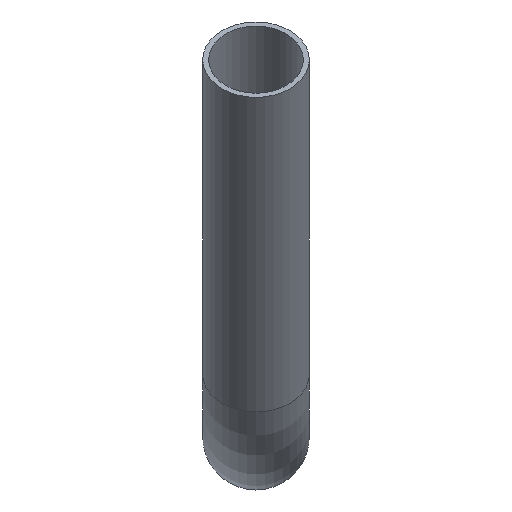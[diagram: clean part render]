
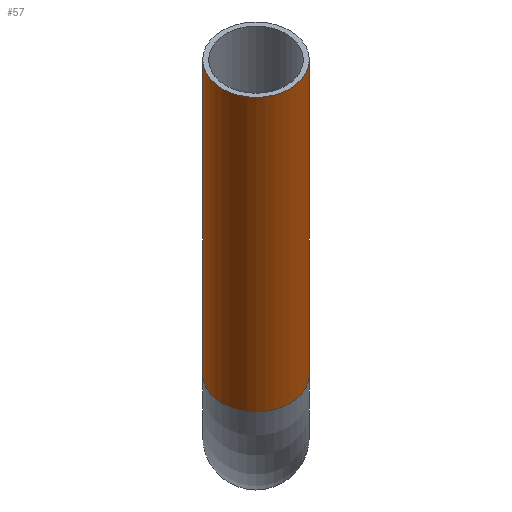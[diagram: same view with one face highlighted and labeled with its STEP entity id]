
A CAD part, front view. The second image highlights one B-rep face of the part: STEP entity #57.
In plain terms, the highlighted cylindrical face has radius 9 mm (diameter 18 mm), a full revolution.
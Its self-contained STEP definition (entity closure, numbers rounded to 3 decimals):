
#57=ADVANCED_FACE('',(#97,#99),#101,.T.);
#97=FACE_OUTER_BOUND('',#98,.T.);
#98=EDGE_LOOP('',(#141));
#99=FACE_OUTER_BOUND('',#100,.T.);
#100=EDGE_LOOP('',(#142));
#101=CYLINDRICAL_SURFACE('',#102,9.);
#102=AXIS2_PLACEMENT_3D('',#103,#104,#105);
#103=CARTESIAN_POINT('',(0.,-10.544,10.544));
#104=DIRECTION('',(0.,-0.707,0.707));
#105=DIRECTION('',(-1.,0.,0.));
#141=ORIENTED_EDGE('',*,*,#153,.T.);
#142=ORIENTED_EDGE('',*,*,#155,.F.);
#153=EDGE_CURVE('',#165,#165,#166,.T.);
#155=EDGE_CURVE('',#169,#169,#170,.T.);
#165=VERTEX_POINT('',#193);
#166=CIRCLE('',#194,9.);
#169=VERTEX_POINT('',#203);
#170=CIRCLE('',#204,9.);
#193=CARTESIAN_POINT('',(-9.,-10.544,10.544));
#194=AXIS2_PLACEMENT_3D('',#195,#196,#197);
#195=CARTESIAN_POINT('',(0.,-10.544,10.544));
#196=DIRECTION('',(0.,-0.707,0.707));
#197=DIRECTION('',(-1.,0.,0.));
#203=CARTESIAN_POINT('',(-9.,-63.64,63.64));
#204=AXIS2_PLACEMENT_3D('',#205,#206,#207);
#205=CARTESIAN_POINT('',(0.,-63.64,63.64));
#206=DIRECTION('',(0.,-0.707,0.707));
#207=DIRECTION('',(-1.,0.,0.));
